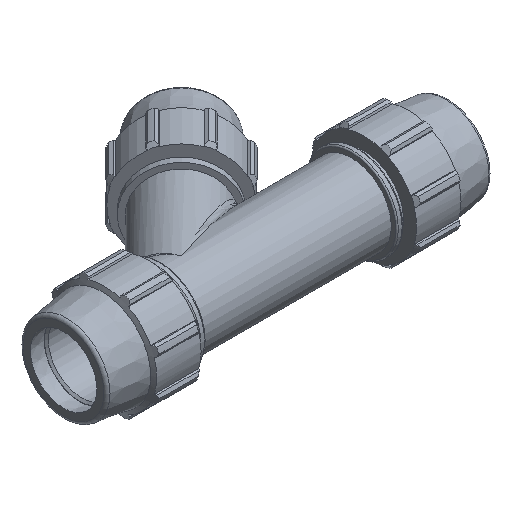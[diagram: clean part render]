
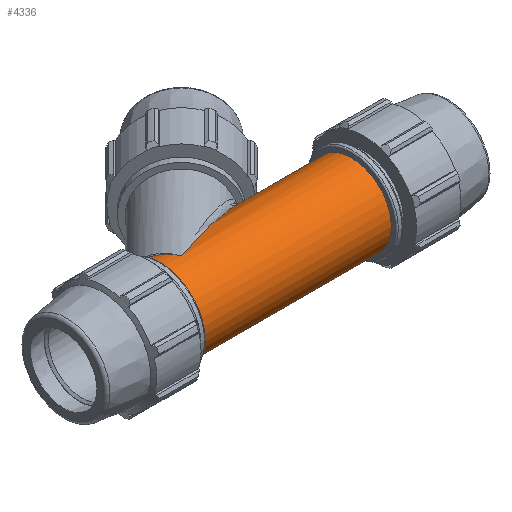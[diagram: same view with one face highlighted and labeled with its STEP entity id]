
A CAD part, isometric view. The second image highlights one B-rep face of the part: STEP entity #4336.
In plain terms, the highlighted cylindrical face has radius 53.162 mm (diameter 106.324 mm), a full revolution.
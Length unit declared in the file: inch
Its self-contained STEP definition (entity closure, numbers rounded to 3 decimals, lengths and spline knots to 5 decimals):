
#22=ELLIPSE('',#4615,6.2565,2.093);
#24=ELLIPSE('',#4617,2.32465,2.093);
#41=FACE_BOUND('',#664,.T.);
#145=CIRCLE('',#4635,2.093);
#146=CIRCLE('',#4636,2.093);
#147=CIRCLE('',#4637,2.093);
#148=CIRCLE('',#4638,2.093);
#332=CYLINDRICAL_SURFACE('',#4634,2.093);
#440=FACE_OUTER_BOUND('',#663,.T.);
#663=EDGE_LOOP('',(#2961,#2962,#2963,#2964,#2965,#2966));
#664=EDGE_LOOP('',(#2967,#2968));
#933=LINE('',#6828,#1244);
#1244=VECTOR('',#5314,2.093);
#1671=VERTEX_POINT('',#6750);
#1672=VERTEX_POINT('',#6752);
#1682=VERTEX_POINT('',#6823);
#1683=VERTEX_POINT('',#6824);
#1684=VERTEX_POINT('',#6827);
#1685=VERTEX_POINT('',#6829);
#2168=EDGE_CURVE('',#1671,#1672,#22,.T.);
#2170=EDGE_CURVE('',#1672,#1671,#24,.T.);
#2184=EDGE_CURVE('',#1682,#1683,#145,.T.);
#2185=EDGE_CURVE('',#1683,#1682,#146,.T.);
#2186=EDGE_CURVE('',#1683,#1684,#933,.T.);
#2187=EDGE_CURVE('',#1684,#1685,#147,.T.);
#2188=EDGE_CURVE('',#1685,#1684,#148,.T.);
#2961=ORIENTED_EDGE('',*,*,#2184,.F.);
#2962=ORIENTED_EDGE('',*,*,#2185,.F.);
#2963=ORIENTED_EDGE('',*,*,#2186,.T.);
#2964=ORIENTED_EDGE('',*,*,#2187,.T.);
#2965=ORIENTED_EDGE('',*,*,#2188,.T.);
#2966=ORIENTED_EDGE('',*,*,#2186,.F.);
#2967=ORIENTED_EDGE('',*,*,#2170,.F.);
#2968=ORIENTED_EDGE('',*,*,#2168,.F.);
#4336=ADVANCED_FACE('',(#440,#41),#332,.T.);
#4615=AXIS2_PLACEMENT_3D('',#6753,#5269,#5270);
#4617=AXIS2_PLACEMENT_3D('',#6795,#5273,#5274);
#4634=AXIS2_PLACEMENT_3D('',#6822,#5308,#5309);
#4635=AXIS2_PLACEMENT_3D('',#6825,#5310,#5311);
#4636=AXIS2_PLACEMENT_3D('',#6826,#5312,#5313);
#4637=AXIS2_PLACEMENT_3D('',#6830,#5315,#5316);
#4638=AXIS2_PLACEMENT_3D('',#6831,#5317,#5318);
#5269=DIRECTION('center_axis',(-0.335,0.942,0.));
#5270=DIRECTION('ref_axis',(0.942,0.335,0.));
#5273=DIRECTION('center_axis',(0.9,0.435,0.));
#5274=DIRECTION('ref_axis',(-0.435,0.9,0.));
#5308=DIRECTION('center_axis',(1.,0.,0.));
#5309=DIRECTION('ref_axis',(0.,1.,0.));
#5310=DIRECTION('center_axis',(1.,0.,0.));
#5311=DIRECTION('ref_axis',(0.,0.,-1.));
#5312=DIRECTION('center_axis',(1.,0.,0.));
#5313=DIRECTION('ref_axis',(0.,0.,-1.));
#5314=DIRECTION('',(-1.,0.,0.));
#5315=DIRECTION('center_axis',(1.,0.,0.));
#5316=DIRECTION('ref_axis',(0.,0.,-1.));
#5317=DIRECTION('center_axis',(1.,0.,0.));
#5318=DIRECTION('ref_axis',(0.,0.,-1.));
#6750=CARTESIAN_POINT('',(-3.916,0.,2.093));
#6752=CARTESIAN_POINT('',(-3.916,0.,-2.093));
#6753=CARTESIAN_POINT('Origin',(-3.916,0.,0.));
#6795=CARTESIAN_POINT('Origin',(-3.916,0.,0.));
#6822=CARTESIAN_POINT('Origin',(2.51313,0.,0.));
#6823=CARTESIAN_POINT('',(5.02627,2.093,0.));
#6824=CARTESIAN_POINT('',(5.02627,-2.093,0.));
#6825=CARTESIAN_POINT('Origin',(5.02627,0.,0.));
#6826=CARTESIAN_POINT('Origin',(5.02627,0.,0.));
#6827=CARTESIAN_POINT('',(-5.02627,-2.093,0.));
#6828=CARTESIAN_POINT('',(2.51313,-2.093,0.));
#6829=CARTESIAN_POINT('',(-5.02627,2.093,0.));
#6830=CARTESIAN_POINT('Origin',(-5.02627,0.,
0.));
#6831=CARTESIAN_POINT('Origin',(-5.02627,0.,
0.));
